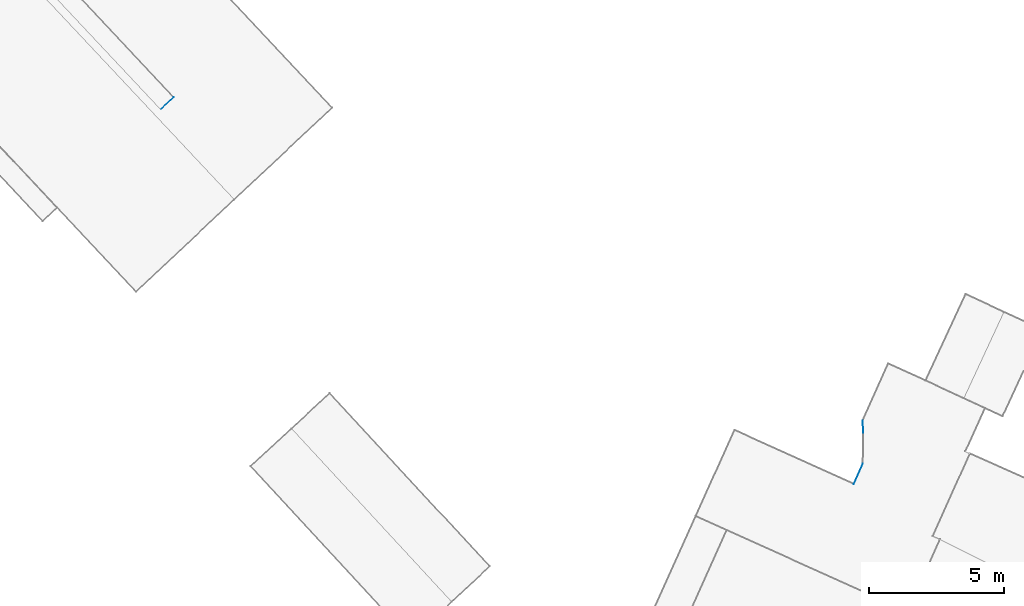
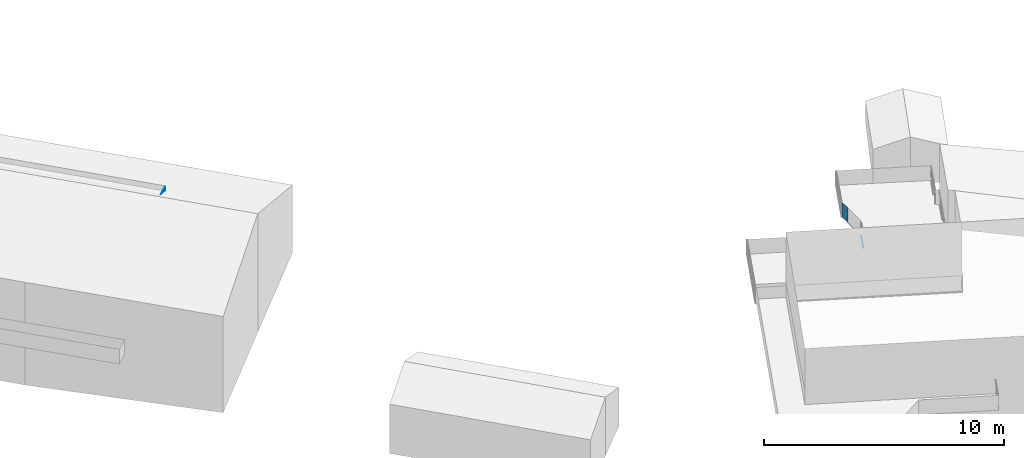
# Not in any storey, part 117 of 136: 3 walls.
"""IFC2X3 building model written with IfcOpenShell, lengths in metres."""

from ifc_helpers import new_model, entity, si_unit, converted_unit, origin, place, context, subcontext, project, spatial, face_set, surface_model, element, save


model = new_model("IFC2X3")

# Units and contexts
model_context = context("Model", 3, precision=1e-05, world=origin())
body_context = subcontext(model_context, "Body", "Model", "MODEL_VIEW")
ifc_project = project(units=[converted_unit("PLANEANGLEUNIT", "DEGREE", entity("IfcRatioMeasure", 0.0174532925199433), si_unit("PLANEANGLEUNIT", "RADIAN"), dimensions=[0, 0, 0, 0, 0, 0, 0]), si_unit("AREAUNIT", "SQUARE_METRE"), si_unit("LENGTHUNIT", "METRE")], contexts=[model_context])

# Site, building
site_placement = place(None, origin())
site = spatial("IfcSite", under=ifc_project, at=site_placement, Name="_site", CompositionType="ELEMENT")
building_1_placement = place(site_placement, origin())
building_1 = spatial("IfcBuilding", under=site, at=building_1_placement, Name="_building", CompositionType="ELEMENT")

# Walls
wall_1_placement = place(building_1_placement, origin())
element("IfcWall", 1, at=wall_1_placement, inside=building_1, Name="Wall", context=body_context, shape_type="SurfaceModel", body=[
    surface_model("IfcFaceBasedSurfaceModel", [(115.9, 101.28, 43.29), (116.24, 102.03, 43.29), (116.24, 102.03, 43.284), (115.9, 101.28, 43.282)], [face_set([[[0, 1, 2, 3]]])]),
])
wall_2_placement = place(building_1_placement, origin())
element("IfcWall", 2, at=wall_2_placement, inside=building_1, Name="Wall", context=body_context, shape_type="SurfaceModel", body=[
    surface_model("IfcFaceBasedSurfaceModel", [(116.26, 103.19, 43.29), (116.23, 103.64, 43.29), (116.23, 103.64, 44.04), (116.26, 103.19, 44.04)], [face_set([[[0, 1, 2, 3]]])]),
])

# Building
building_2_placement = place(site_placement, origin())
building_2 = spatial("IfcBuilding", under=site, at=building_2_placement, Name="_building", CompositionType="ELEMENT")

# Wall
wall_3_placement = place(building_2_placement, origin())
element("IfcWall", 3, at=wall_3_placement, inside=building_2, Name="Wall", context=body_context, shape_type="SurfaceModel", body=[
    surface_model("IfcFaceBasedSurfaceModel", [(90.63, 115.65, 46.56), (90.14, 115.2, 46.55), (90.63, 115.65, 46.298)], [face_set([[[0, 1, 2]]])]),
])

save(model, "model.ifc")
